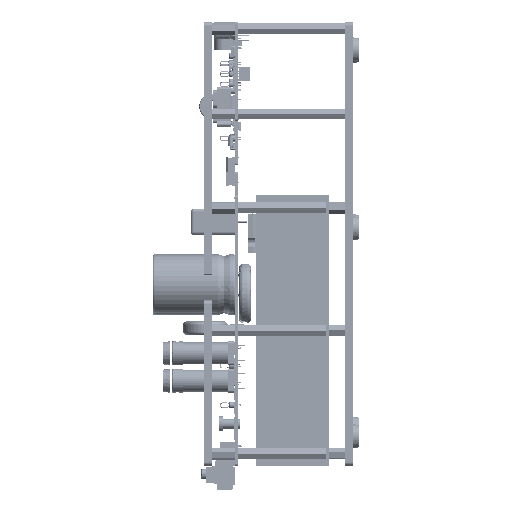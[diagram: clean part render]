
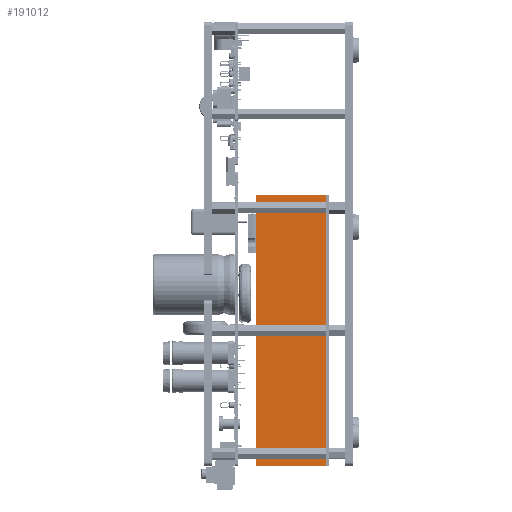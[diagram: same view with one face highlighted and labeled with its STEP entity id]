
A CAD part, left-side view. The second image highlights one B-rep face of the part: STEP entity #191012.
In plain terms, the highlighted planar face has unit normal (-1, 0, 0) as drawn and (0, 1, 0) by its records, which use the part's own axes.
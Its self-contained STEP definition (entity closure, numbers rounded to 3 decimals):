
#4591 = VECTOR ( 'NONE', #557992, 1000. ) ;
#13255 = DIRECTION ( 'NONE',  ( 0., 0., 1. ) ) ;
#17701 = EDGE_LOOP ( 'NONE', ( #750077, #533731, #645822, #490670 ) ) ;
#63452 = LINE ( 'NONE', #121201, #560094 ) ;
#64124 = CARTESIAN_POINT ( 'NONE',  ( 160.316, 97.532, -46.6 ) ) ;
#78262 = VECTOR ( 'NONE', #496533, 1000. ) ;
#110005 = VERTEX_POINT ( 'NONE', #64124 ) ;
#121201 = CARTESIAN_POINT ( 'NONE',  ( 160.316, 97.532, -46.6 ) ) ;
#152937 = FACE_OUTER_BOUND ( 'NONE', #17701, .T. ) ;
#164966 = CARTESIAN_POINT ( 'NONE',  ( 20.616, 97.532, -46.6 ) ) ;
#191012 = ADVANCED_FACE ( 'NONE', ( #152937 ), #730602, .F. ) ;
#194862 = CARTESIAN_POINT ( 'NONE',  ( 20.616, 97.532, -46.6 ) ) ;
#201995 = CARTESIAN_POINT ( 'NONE',  ( 20.616, 97.532, -46.6 ) ) ;
#218772 = LINE ( 'NONE', #164966, #4591 ) ;
#256534 = EDGE_CURVE ( 'NONE', #256647, #467567, #427316, .T. ) ;
#256647 = VERTEX_POINT ( 'NONE', #269069 ) ;
#269069 = CARTESIAN_POINT ( 'NONE',  ( 20.616, 97.532, -10.5 ) ) ;
#285468 = VERTEX_POINT ( 'NONE', #201995 ) ;
#319292 = CARTESIAN_POINT ( 'NONE',  ( 20.616, 97.532, -10.5 ) ) ;
#343889 = EDGE_CURVE ( 'NONE', #285468, #110005, #545320, .T. ) ;
#427316 = LINE ( 'NONE', #319292, #78262 ) ;
#449341 = DIRECTION ( 'NONE',  ( 0., -1., 0. ) ) ;
#467567 = VERTEX_POINT ( 'NONE', #749353 ) ;
#490670 = ORIENTED_EDGE ( 'NONE', *, *, #723478, .F. ) ;
#496533 = DIRECTION ( 'NONE',  ( 1., 0., 0. ) ) ;
#499576 = CARTESIAN_POINT ( 'NONE',  ( 20.616, 97.532, -46.6 ) ) ;
#533731 = ORIENTED_EDGE ( 'NONE', *, *, #639121, .F. ) ;
#534814 = AXIS2_PLACEMENT_3D ( 'NONE', #499576, #449341, #676728 ) ;
#545320 = LINE ( 'NONE', #194862, #735843 ) ;
#557992 = DIRECTION ( 'NONE',  ( 0., 0., -1. ) ) ;
#560094 = VECTOR ( 'NONE', #13255, 1000. ) ;
#639121 = EDGE_CURVE ( 'NONE', #256647, #285468, #218772, .T. ) ;
#645822 = ORIENTED_EDGE ( 'NONE', *, *, #256534, .T. ) ;
#672189 = DIRECTION ( 'NONE',  ( 1., 0., 0. ) ) ;
#676728 = DIRECTION ( 'NONE',  ( 1., 0., 0. ) ) ;
#723478 = EDGE_CURVE ( 'NONE', #110005, #467567, #63452, .T. ) ;
#730602 = PLANE ( 'NONE',  #534814 ) ;
#735843 = VECTOR ( 'NONE', #672189, 1000. ) ;
#749353 = CARTESIAN_POINT ( 'NONE',  ( 160.316, 97.532, -10.5 ) ) ;
#750077 = ORIENTED_EDGE ( 'NONE', *, *, #343889, .F. ) ;
